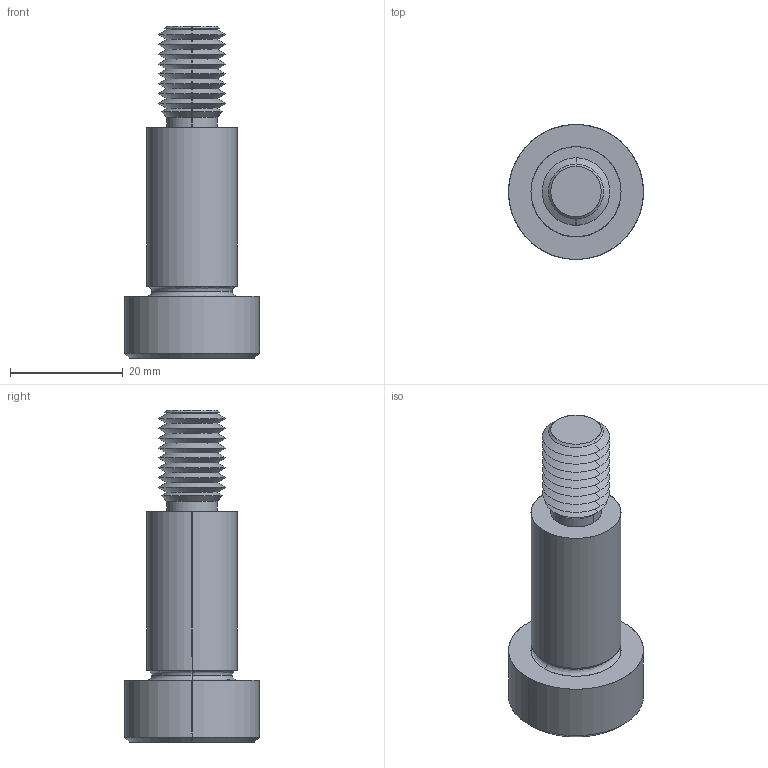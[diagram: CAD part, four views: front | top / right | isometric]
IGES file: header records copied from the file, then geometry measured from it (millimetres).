
Start section: SolidWorks IGES file using analytic representation for surfaces
Global section: file name: C:\Users\IanO\Documents\Temp Folder\GENERAL\SCREW REVISION\P0130_v2\P0130.T5_v2_20220106_IGES\P0130.160-030-T5.igs; native system: SolidWorks 2019; preprocessor: SolidWorks 2019; author: IanO; date: 220106.225320; units: millimetre
Bounding box: 24 x 24 x 59 mm (x, y, z)
Surface area: 4554.5 mm2 (no closed solid volume)
Topology: 0 solids, 0 shells, 76 faces, 588 edges, 586 vertices
Faces by surface type: revolution 56, bspline 20
